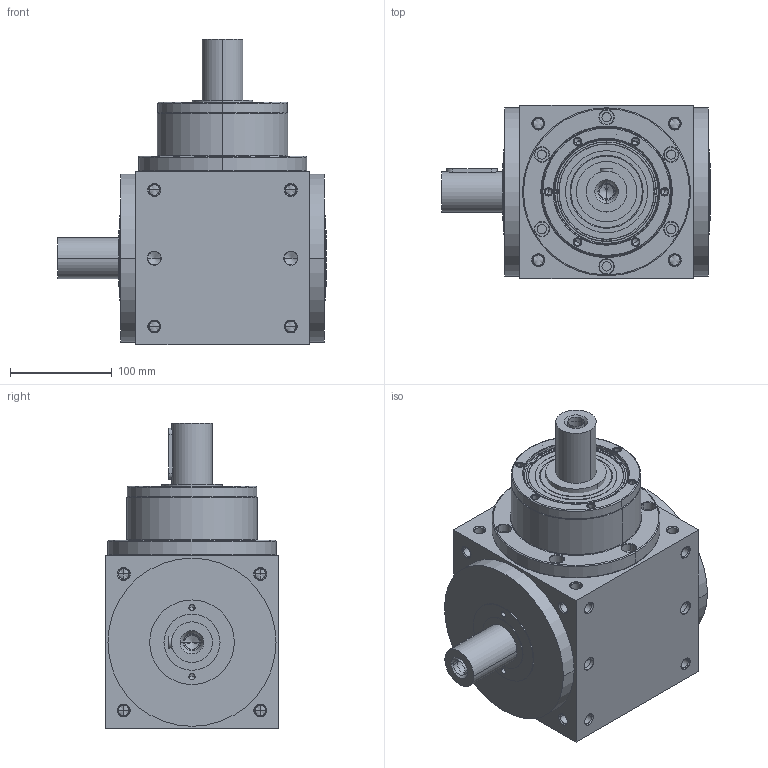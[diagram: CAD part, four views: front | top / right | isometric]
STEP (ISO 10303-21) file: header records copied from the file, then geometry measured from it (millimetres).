
FILE_DESCRIPTION((''),'2;1');
FILE_NAME('AT170L1-1_ASM','2008-12-31T',('d00176'),(''),'PRO/ENGINEER BY PARAMETRIC TECHNOLOGY CORPORATION, 2006170','PRO/ENGINEER BY PARAMETRIC TECHNOLOGY CORPORATION, 2006170','');
FILE_SCHEMA(('CONFIG_CONTROL_DESIGN'));
Length unit declared in the file: millimetre
Products named in the file (4): ATL1-HOUSING-1-7; P1801700001; 22400071007; AT170L1-1_ASM
Assembly tree (3 placements, depth 2):
  AT170L1-1_ASM
    ATL1-HOUSING-1-7
    P1801700001
    22400071007
Bounding box: 264 x 170 x 300 mm (x, y, z)
Volume: 6313901 mm3; surface area: 381748.8 mm2
Topology: 4 solids, 36 shells, 592 faces, 1464 edges, 867 vertices
Faces by surface type: cylinder 274, cone 206, plane 76, torus 36
Entity records: 17756 total; most frequent: CARTESIAN_POINT 3782, DIRECTION 3136, ORIENTED_EDGE 2644, EDGE_CURVE 1386, AXIS2_PLACEMENT_3D 1315, VERTEX_POINT 867, CIRCLE 712, EDGE_LOOP 705
